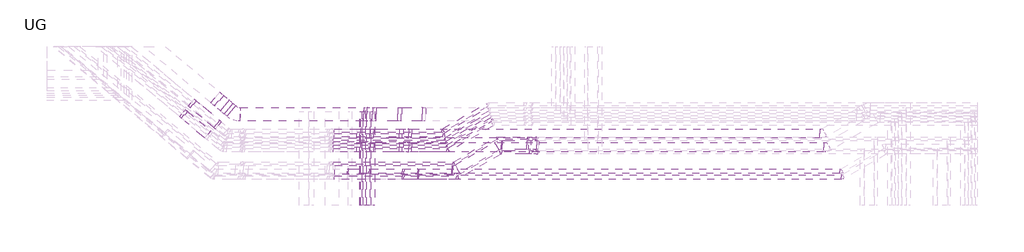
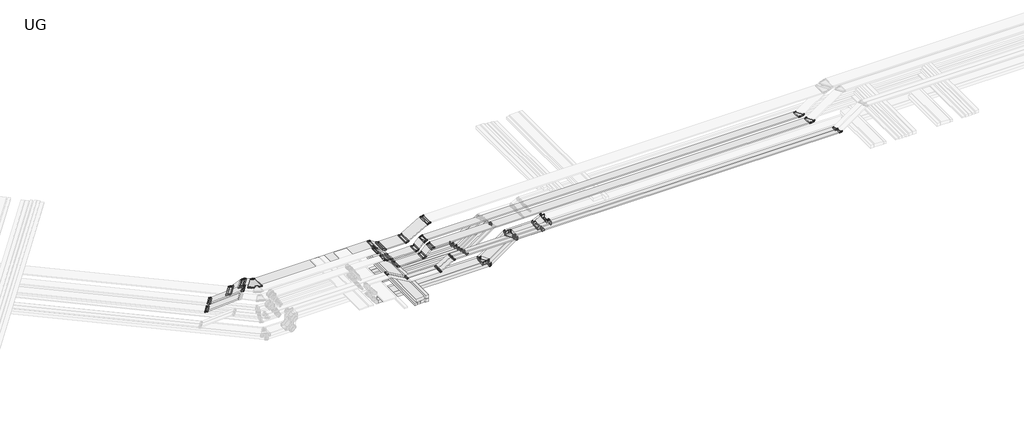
# One storey, part 8 of 14: 52 cable carrier segments, 49 cable carrier fittings.
"""IFC4 building model written with IfcOpenShell, lengths in millimetres."""

from ifc_helpers import new_model, si_unit, frame, origin, place, context, project, spatial, polyline, outline, extrude, transform, mapped, element, save
from components import cable_tray_horizontal_bend_765600c6, cable_tray_horizontal_bend_6dfea8e0, cable_tray_horizontal_bend_a9337890, cable_tray_horizontal_bend_72472c01, cable_tray_horizontal_bend_216ff8bb, cable_tray_horizontal_bend_c8e18077, cable_tray_horizontal_bend_747fd2c7, cable_tray_reducer_bedc4a8b, cable_tray_reducer_a81609a3, cable_tray_vertical_inside_bend_327bc21f, cable_tray_vertical_inside_bend_f6baaffd, cable_tray_vertical_inside_bend_1594799f, cable_tray_vertical_inside_bend_f7f475b4, cable_tray_vertical_inside_bend_de01723b, cable_tray_vertical_inside_bend_7bb7661d, cable_tray_vertical_inside_bend_f21016f6, cable_tray_vertical_inside_bend_f7b240b8, cable_tray_vertical_outside_bend_dc64f624, cable_tray_vertical_outside_bend_59e16c32, cable_tray_vertical_outside_bend_12a83c8c, cable_tray_vertical_outside_bend_bbdee010, cable_tray_vertical_outside_bend_665fa45d, cable_tray_vertical_outside_bend_05a7bdd1, cable_tray_vertical_outside_bend_51700d4c, cable_tray_vertical_outside_bend_0b2dca79

model = new_model("IFC4")

# Units and contexts
model_context = context("Model", 3, world=origin())
ifc_project = project(units=[si_unit("LENGTHUNIT", "METRE", prefix="MILLI")], contexts=[model_context])

# Site, building, storey
site = spatial("IfcSite", under=ifc_project)
building = spatial("IfcBuilding", under=site)
storey = spatial("IfcBuildingStorey", under=building, Name="UG", Elevation=7925.0)

# Cable carrier fittings
placement = place(None, origin())
cable_tray_horizontal_bend_shape = cable_tray_horizontal_bend_765600c6(model_context)
element("IfcCableCarrierFitting", 1, ObjectType="Cable Tray Horizontal Bend : ELEC_SUB_CT_N2402", at=placement, inside=storey, context=model_context, shape_type="MappedRepresentation", body=[
    mapped(cable_tray_horizontal_bend_shape, transform((133356.4809978, 24549.9737056, 13350.0000095), x_axis=(0.7660444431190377, -0.6427876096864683, 0.0), y_axis=(0.6427876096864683, 0.7660444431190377, 0.0), z_axis=(0.0, 0.0, 1.0))),
])
cable_tray_horizontal_bend_2_shape = cable_tray_horizontal_bend_6dfea8e0(model_context)
element("IfcCableCarrierFitting", 2, ObjectType="Cable Tray Horizontal Bend : ELEC_SUB_CT_N2402", at=placement, inside=storey, context=model_context, shape_type="MappedRepresentation", body=[
    mapped(cable_tray_horizontal_bend_2_shape, transform((159039.9266219, 23699.9737061, 13499.9999917), x_axis=(1.0, 0.0, 0.0), y_axis=(0.0, 1.0, 0.0), z_axis=(0.0, 0.0, 1.0))),
])
element("IfcCableCarrierFitting", 3, ObjectType="Cable Tray Horizontal Bend : ELEC_SUB_CT_N2402", at=placement, inside=storey, context=model_context, shape_type="MappedRepresentation", body=[
    mapped(cable_tray_horizontal_bend_2_shape, transform((159219.6162888, 23099.9736973, 13499.9999917), x_axis=(1.0, 0.0, 0.0), y_axis=(0.0, 1.0, 0.0), z_axis=(0.0, 0.0, 1.0))),
])
cable_tray_horizontal_bend_3_shape = cable_tray_horizontal_bend_a9337890(model_context)
element("IfcCableCarrierFitting", 4, ObjectType="Cable Tray Horizontal Bend : ELEC_SUB_CT_N2402", at=placement, inside=storey, context=model_context, shape_type="MappedRepresentation", body=[
    mapped(cable_tray_horizontal_bend_3_shape, transform((159911.7620239, 21797.4337006, 13499.9999917), x_axis=(1.0, 0.0, 0.0), y_axis=(0.0, 1.0, 0.0), z_axis=(0.0, 0.0, 1.0))),
])
element("IfcCableCarrierFitting", 5, ObjectType="Cable Tray Horizontal Bend : ELEC_SUB_CT_N2402", at=placement, inside=storey, context=model_context, shape_type="MappedRepresentation", body=[
    mapped(cable_tray_horizontal_bend_3_shape, transform((159844.7747258, 22047.4337006, 13499.9999917), x_axis=(1.0, 0.0, 0.0), y_axis=(0.0, 1.0, 0.0), z_axis=(0.0, 0.0, 1.0))),
])
cable_tray_horizontal_bend_4_shape = cable_tray_horizontal_bend_72472c01(model_context)
element("IfcCableCarrierFitting", 6, ObjectType="Cable Tray Horizontal Bend : ELEC_ELV_TKG_N2402", at=placement, inside=storey, context=model_context, shape_type="MappedRepresentation", body=[
    mapped(cable_tray_horizontal_bend_4_shape, transform((144976.368864, 22875.1903846, 12649.8684524), x_axis=(-0.99999999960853, 0.0, 2.7981063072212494e-05), y_axis=(2.0978811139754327e-10, -0.9999999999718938, 7.497503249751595e-06), z_axis=(2.7981063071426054e-05, 7.497503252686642e-06, 0.9999999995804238))),
])
element("IfcCableCarrierFitting", 7, ObjectType="Cable Tray Horizontal Bend : ELEC_ELV_TKG_N2402", at=placement, inside=storey, context=model_context, shape_type="MappedRepresentation", body=[
    mapped(cable_tray_horizontal_bend_4_shape, transform((143070.7376596, 21774.9736958, 12649.9300229), x_axis=(1.0, 0.0, 0.0), y_axis=(0.0, 0.9999999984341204, -5.5962126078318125e-05), z_axis=(0.0, 5.5962126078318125e-05, 0.9999999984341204))),
])
element("IfcCableCarrierFitting", 8, ObjectType="Cable Tray Horizontal Bend : ELEC_ELV_TKG_N2402", at=placement, inside=storey, context=model_context, shape_type="MappedRepresentation", body=[
    mapped(cable_tray_horizontal_bend_4_shape, transform((142475.4124203, 23624.9736983, 12649.9185665), x_axis=(1.0, 0.0, 0.0), y_axis=(0.0, 0.9999999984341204, -5.596212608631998e-05), z_axis=(0.0, 5.596212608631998e-05, 0.9999999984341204))),
])
element("IfcCableCarrierFitting", 9, ObjectType="Cable Tray Horizontal Bend : ELEC_ELV_TKG_N2402", at=placement, inside=storey, context=model_context, shape_type="MappedRepresentation", body=[
    mapped(cable_tray_horizontal_bend_4_shape, transform((142421.8225818, 23824.9736983, 12649.917067), x_axis=(1.0, 0.0, 0.0), y_axis=(0.0, 0.9999999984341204, -5.5962126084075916e-05), z_axis=(0.0, 5.5962126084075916e-05, 0.9999999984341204))),
])
cable_tray_horizontal_bend_5_shape = cable_tray_horizontal_bend_216ff8bb(model_context)
element("IfcCableCarrierFitting", 10, ObjectType="Cable Tray Horizontal Bend : ELEC_ELV_TKG_N2402", at=placement, inside=storey, context=model_context, shape_type="MappedRepresentation", body=[
    mapped(cable_tray_horizontal_bend_5_shape, transform((144888.9556207, 23200.0, 12669.7868085), x_axis=(-0.9999999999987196, 0.0, -1.6002941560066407e-06), y_axis=(-7.936177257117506e-11, -0.9999999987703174, 4.9591990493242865e-05), z_axis=(-1.6002941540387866e-06, 4.9591990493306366e-05, 0.9999999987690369))),
])
element("IfcCableCarrierFitting", 11, ObjectType="Cable Tray Horizontal Bend : ELEC_ELV_TKG_N2402", at=placement, inside=storey, context=model_context, shape_type="MappedRepresentation", body=[
    mapped(cable_tray_horizontal_bend_5_shape, transform((142983.6541723, 22099.9736957, 12669.838312), x_axis=(1.0, 0.0, 0.0), y_axis=(0.0, 0.9999999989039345, -4.6820199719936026e-05), z_axis=(0.0, 4.6820199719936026e-05, 0.9999999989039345))),
])
cable_tray_horizontal_bend_6_shape = cable_tray_horizontal_bend_c8e18077(model_context)
element("IfcCableCarrierFitting", 12, ObjectType="Cable Tray Horizontal Bend : ELEC_ELV_TKG_N2402", at=placement, inside=storey, context=model_context, shape_type="MappedRepresentation", body=[
    mapped(cable_tray_horizontal_bend_6_shape, transform((144808.9516321, 23500.0, 12624.6734967), x_axis=(-0.99999999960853, 0.0, 2.798106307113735e-05), y_axis=(2.0978811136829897e-10, -0.9999999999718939, 7.4975032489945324e-06), z_axis=(2.7981063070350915e-05, 7.4975032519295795e-06, 0.999999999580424))),
])
element("IfcCableCarrierFitting", 13, ObjectType="Cable Tray Horizontal Bend : ELEC_ELV_TKG_N2402", at=placement, inside=storey, context=model_context, shape_type="MappedRepresentation", body=[
    mapped(cable_tray_horizontal_bend_6_shape, transform((144594.5922772, 24300.0000036, 12624.8577699), x_axis=(-0.99999999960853, 0.0, 2.7981063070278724e-05), y_axis=(2.097881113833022e-10, -0.9999999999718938, 7.497503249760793e-06), z_axis=(2.7981063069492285e-05, 7.49750325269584e-06, 0.9999999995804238))),
])
element("IfcCableCarrierFitting", 14, ObjectType="Cable Tray Horizontal Bend : ELEC_ELV_TKG_N2402", at=placement, inside=storey, context=model_context, shape_type="MappedRepresentation", body=[
    mapped(cable_tray_horizontal_bend_6_shape, transform((142903.3204278, 22399.7833112, 12624.7350672), x_axis=(1.0, 0.0, 0.0), y_axis=(0.0, 0.9999999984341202, -5.5962126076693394e-05), z_axis=(0.0, 5.5962126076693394e-05, 0.9999999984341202))),
])
element("IfcCableCarrierFitting", 15, ObjectType="Cable Tray Horizontal Bend : ELEC_ELV_TKG_N2402", at=placement, inside=storey, context=model_context, shape_type="MappedRepresentation", body=[
    mapped(cable_tray_horizontal_bend_6_shape, transform((142602.6882865, 23149.9736983, 12624.9221278), x_axis=(1.0, 0.0, 0.0), y_axis=(0.0, 0.9999999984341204, -5.596212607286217e-05), z_axis=(0.0, 5.596212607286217e-05, 0.9999999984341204))),
])
element("IfcCableCarrierFitting", 16, ObjectType="Cable Tray Horizontal Bend : ELEC_ELV_TKG_N2402", at=placement, inside=storey, context=model_context, shape_type="MappedRepresentation", body=[
    mapped(cable_tray_horizontal_bend_6_shape, transform((142562.4959076, 23299.9736983, 12624.9210031), x_axis=(1.0, 0.0, 0.0), y_axis=(0.0, 0.9999999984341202, -5.596212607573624e-05), z_axis=(0.0, 5.596212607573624e-05, 0.9999999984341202))),
])
element("IfcCableCarrierFitting", 17, ObjectType="Cable Tray Horizontal Bend : ELEC_ELV_TKG_N2402", at=placement, inside=storey, context=model_context, shape_type="MappedRepresentation", body=[
    mapped(cable_tray_horizontal_bend_6_shape, transform((142522.3035288, 23449.9736983, 12624.919409), x_axis=(1.0, 0.0, 0.0), y_axis=(0.0, 0.9999999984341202, -5.596212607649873e-05), z_axis=(0.0, 5.596212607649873e-05, 0.9999999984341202))),
])
cable_tray_horizontal_bend_7_shape = cable_tray_horizontal_bend_747fd2c7(model_context)
element("IfcCableCarrierFitting", 18, ObjectType="Cable Tray Horizontal Bend : ELEC_ELV_CT_N2402", at=placement, inside=storey, context=model_context, shape_type="MappedRepresentation", body=[
    mapped(cable_tray_horizontal_bend_7_shape, transform((142648.9661933, 22974.619666, 12599.9852732), x_axis=(1.0, 0.0, 0.0), y_axis=(0.0, 0.9999999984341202, -5.596212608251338e-05), z_axis=(0.0, 5.596212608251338e-05, 0.9999999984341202))),
])
cable_tray_reducer_shape = cable_tray_reducer_bedc4a8b(model_context)
element("IfcCableCarrierFitting", 19, ObjectType="Cable Tray Reducer : ELEC_ELV_TKG_N2402", at=placement, inside=storey, context=model_context, shape_type="MappedRepresentation", body=[
    mapped(cable_tray_reducer_shape, transform((144996.1352976, 23200.0, 12669.7869801), x_axis=(0.9999999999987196, 0.0, 1.60029415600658e-06), y_axis=(7.936177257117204e-11, 0.9999999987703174, -4.959199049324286e-05), z_axis=(-1.600294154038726e-06, 4.959199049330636e-05, 0.9999999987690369))),
])
cable_tray_reducer_2_shape = cable_tray_reducer_a81609a3(model_context)
element("IfcCableCarrierFitting", 20, ObjectType="Cable Tray Reducer : ELEC_ELV_TKG_N2402", at=placement, inside=storey, context=model_context, shape_type="MappedRepresentation", body=[
    mapped(cable_tray_reducer_2_shape, transform((142876.4744953, 22099.9736957, 12669.838312), x_axis=(-1.0, 0.0, 0.0), y_axis=(0.0, -0.9999999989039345, 4.6820199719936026e-05), z_axis=(0.0, 4.6820199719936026e-05, 0.9999999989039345))),
])
cable_tray_vertical_inside_bend_shape = cable_tray_vertical_inside_bend_327bc21f(model_context)
element("IfcCableCarrierFitting", 21, ObjectType="Cable Tray Vertical Inside Bend : ELEC_SUB_CT_N2402", at=placement, inside=storey, context=model_context, shape_type="MappedRepresentation", body=[
    mapped(cable_tray_vertical_inside_bend_shape, transform((131478.6679554, 25016.0497415, 12850.0), x_axis=(0.7660444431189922, -0.6427876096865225, 0.0), y_axis=(0.0, 0.0, 1.0), z_axis=(-0.6427876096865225, -0.7660444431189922, 0.0))),
])
element("IfcCableCarrierFitting", 22, ObjectType="Cable Tray Vertical Inside Bend : ELEC_SUB_CT_N2402", at=placement, inside=storey, context=model_context, shape_type="MappedRepresentation", body=[
    mapped(cable_tray_vertical_inside_bend_shape, transform((131092.995384, 24556.4230689, 12850.0), x_axis=(-0.6634139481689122, 0.5566703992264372, -0.5000000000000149), y_axis=(-0.38302222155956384, 0.32139380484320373, 0.8660254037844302), z_axis=(0.6427876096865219, 0.7660444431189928, 0.0))),
])
cable_tray_vertical_inside_bend_2_shape = cable_tray_vertical_inside_bend_f6baaffd(model_context)
element("IfcCableCarrierFitting", 23, ObjectType="Cable Tray Vertical Inside Bend : ELEC_SUB_CT_N2402", at=placement, inside=storey, context=model_context, shape_type="MappedRepresentation", body=[
    mapped(cable_tray_vertical_inside_bend_2_shape, transform((140619.6162893, 23699.9737061, 13125.0), x_axis=(-0.7071067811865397, 0.0, -0.7071067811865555), y_axis=(-0.7071067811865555, 0.0, 0.7071067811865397), z_axis=(0.0, 1.0, 0.0))),
])
element("IfcCableCarrierFitting", 24, ObjectType="Cable Tray Vertical Inside Bend : ELEC_SUB_CT_N2402", at=placement, inside=storey, context=model_context, shape_type="MappedRepresentation", body=[
    mapped(cable_tray_vertical_inside_bend_2_shape, transform((139314.9266219, 23699.9737061, 13125.0), x_axis=(0.7071067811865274, 0.0, -0.7071067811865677), y_axis=(0.7071067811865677, 0.0, 0.7071067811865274), z_axis=(0.0, -1.0, 0.0))),
])
element("IfcCableCarrierFitting", 25, ObjectType="Cable Tray Vertical Inside Bend : ELEC_SUB_CT_N2402", at=placement, inside=storey, context=model_context, shape_type="MappedRepresentation", body=[
    mapped(cable_tray_vertical_inside_bend_2_shape, transform((140619.6162893, 23099.9736973, 13125.0), x_axis=(-0.7071067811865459, 0.0, -0.7071067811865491), y_axis=(-0.7071067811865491, 0.0, 0.7071067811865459), z_axis=(0.0, 1.0, 0.0))),
])
element("IfcCableCarrierFitting", 26, ObjectType="Cable Tray Vertical Inside Bend : ELEC_SUB_CT_N2402", at=placement, inside=storey, context=model_context, shape_type="MappedRepresentation", body=[
    mapped(cable_tray_vertical_inside_bend_2_shape, transform((139314.9266219, 23099.9736973, 13125.0), x_axis=(0.7071067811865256, 0.0, -0.7071067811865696), y_axis=(0.7071067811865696, 0.0, 0.7071067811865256), z_axis=(0.0, -1.0, 0.0))),
])
cable_tray_vertical_inside_bend_3_shape = cable_tray_vertical_inside_bend_1594799f(model_context)
element("IfcCableCarrierFitting", 27, ObjectType="Cable Tray Vertical Inside Bend : ELEC_SUB_CT_N2402", at=placement, inside=storey, context=model_context, shape_type="MappedRepresentation", body=[
    mapped(cable_tray_vertical_inside_bend_3_shape, transform((132579.6338733, 25201.8258413, 12850.0), x_axis=(-0.5416752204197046, 0.4545194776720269, -0.7071067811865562), y_axis=(-0.54167522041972, 0.45451947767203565, 0.707106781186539), z_axis=(0.6427876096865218, 0.7660444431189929, 0.0))),
])
cable_tray_vertical_inside_bend_4_shape = cable_tray_vertical_inside_bend_f7f475b4(model_context)
element("IfcCableCarrierFitting", 28, ObjectType="Cable Tray Vertical Inside Bend : ELEC_SUB_CT_N2402", at=placement, inside=storey, context=model_context, shape_type="MappedRepresentation", body=[
    mapped(cable_tray_vertical_inside_bend_4_shape, transform((140555.3158669, 24549.9737056, 13125.0), x_axis=(-0.8660254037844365, 0.0, -0.5000000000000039), y_axis=(-0.5000000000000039, 0.0, 0.8660254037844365), z_axis=(0.0, 1.0, 0.0))),
])
element("IfcCableCarrierFitting", 29, ObjectType="Cable Tray Vertical Inside Bend : ELEC_SUB_CT_N2402", at=placement, inside=storey, context=model_context, shape_type="MappedRepresentation", body=[
    mapped(cable_tray_vertical_inside_bend_4_shape, transform((139444.6841331, 24549.9737056, 13125.0), x_axis=(0.8660254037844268, 0.0, -0.5000000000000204), y_axis=(0.5000000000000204, 0.0, 0.8660254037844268), z_axis=(0.0, -1.0, 0.0))),
])
cable_tray_vertical_inside_bend_5_shape = cable_tray_vertical_inside_bend_de01723b(model_context)
element("IfcCableCarrierFitting", 30, ObjectType="Cable Tray Vertical Inside Bend : ELEC_SUB_CT_N2402", at=placement, inside=storey, context=model_context, shape_type="MappedRepresentation", body=[
    mapped(cable_tray_vertical_inside_bend_5_shape, transform((140700.0, 21797.4337006, 13125.0), x_axis=(-0.8660254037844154, 0.0, -0.5000000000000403), y_axis=(-0.5000000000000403, 0.0, 0.8660254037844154), z_axis=(0.0, 1.0, 0.0))),
])
element("IfcCableCarrierFitting", 31, ObjectType="Cable Tray Vertical Inside Bend : ELEC_SUB_CT_N2402", at=placement, inside=storey, context=model_context, shape_type="MappedRepresentation", body=[
    mapped(cable_tray_vertical_inside_bend_5_shape, transform((139235.0, 22047.4337006, 13125.0), x_axis=(0.8660254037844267, 0.0, -0.5000000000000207), y_axis=(0.5000000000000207, 0.0, 0.8660254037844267), z_axis=(0.0, -1.0, 0.0))),
])
element("IfcCableCarrierFitting", 32, ObjectType="Cable Tray Vertical Inside Bend : ELEC_SUB_CT_N2402", at=placement, inside=storey, context=model_context, shape_type="MappedRepresentation", body=[
    mapped(cable_tray_vertical_inside_bend_5_shape, transform((140700.0, 22047.4337006, 13125.0), x_axis=(-0.866025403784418, 0.0, -0.500000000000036), y_axis=(-0.500000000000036, 0.0, 0.866025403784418), z_axis=(0.0, 1.0, 0.0))),
])
cable_tray_vertical_inside_bend_6_shape = cable_tray_vertical_inside_bend_7bb7661d(model_context)
element("IfcCableCarrierFitting", 33, ObjectType="Cable Tray Vertical Inside Bend : ELEC_ELV_TKG_N2402", at=placement, inside=storey, context=model_context, shape_type="MappedRepresentation", body=[
    mapped(cable_tray_vertical_inside_bend_6_shape, transform((146247.5404939, 22875.1903846, 12649.8690269), x_axis=(-0.8660254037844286, 0.0, -0.5000000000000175), y_axis=(-0.5000000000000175, 0.0, 0.8660254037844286), z_axis=(0.0, 1.0, 0.0))),
])
cable_tray_vertical_inside_bend_7_shape = cable_tray_vertical_inside_bend_f21016f6(model_context)
element("IfcCableCarrierFitting", 34, ObjectType="Cable Tray Vertical Inside Bend : ELEC_ELV_TKG_N2402", at=placement, inside=storey, context=model_context, shape_type="MappedRepresentation", body=[
    mapped(cable_tray_vertical_inside_bend_7_shape, transform((146180.2158353, 23200.0, 12649.6816825), x_axis=(-0.8660254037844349, 0.0, -0.5000000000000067), y_axis=(-0.5000000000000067, 0.0, 0.8660254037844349), z_axis=(0.0, 1.0, 0.0))),
])
cable_tray_vertical_inside_bend_8_shape = cable_tray_vertical_inside_bend_f7b240b8(model_context)
element("IfcCableCarrierFitting", 35, ObjectType="Cable Tray Vertical Inside Bend : ELEC_ELV_TKG_N2402", at=placement, inside=storey, context=model_context, shape_type="MappedRepresentation", body=[
    mapped(cable_tray_vertical_inside_bend_8_shape, transform((146165.8972261, 23500.0, 12624.6806903), x_axis=(-0.8660254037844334, 0.0, -0.5000000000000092), y_axis=(-0.5000000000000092, 0.0, 0.8660254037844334), z_axis=(0.0, 1.0, 0.0))),
])
cable_tray_vertical_outside_bend_shape = cable_tray_vertical_outside_bend_dc64f624(model_context)
element("IfcCableCarrierFitting", 36, ObjectType="Cable Tray Vertical Outside Bend : ELEC_SUB_CT_N2402", at=placement, inside=storey, context=model_context, shape_type="MappedRepresentation", body=[
    mapped(cable_tray_vertical_outside_bend_shape, transform((132573.3009692, 24097.5435834, 13674.9999995), x_axis=(0.6634139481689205, -0.5566703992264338, 0.5000000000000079), y_axis=(0.3830222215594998, -0.3213938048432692, -0.8660254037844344), z_axis=(0.6427876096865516, 0.7660444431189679, 0.0))),
])
cable_tray_vertical_outside_bend_2_shape = cable_tray_vertical_outside_bend_59e16c32(model_context)
element("IfcCableCarrierFitting", 37, ObjectType="Cable Tray Vertical Outside Bend : ELEC_SUB_CT_N2402", at=placement, inside=storey, context=model_context, shape_type="MappedRepresentation", body=[
    mapped(cable_tray_vertical_outside_bend_2_shape, transform((138764.9266224, 23699.9737061, 13674.9999995), x_axis=(-0.7071067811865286, 0.0, 0.7071067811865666), y_axis=(-0.7071067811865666, 0.0, -0.7071067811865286), z_axis=(0.0, -1.0, 0.0))),
])
element("IfcCableCarrierFitting", 38, ObjectType="Cable Tray Vertical Outside Bend : ELEC_SUB_CT_N2402", at=placement, inside=storey, context=model_context, shape_type="MappedRepresentation", body=[
    mapped(cable_tray_vertical_outside_bend_2_shape, transform((138764.9266224, 23099.9736973, 13674.9999995), x_axis=(-0.7071067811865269, 0.0, 0.7071067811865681), y_axis=(-0.7071067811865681, 0.0, -0.7071067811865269), z_axis=(0.0, -1.0, 0.0))),
])
element("IfcCableCarrierFitting", 39, ObjectType="Cable Tray Vertical Outside Bend : ELEC_SUB_CT_N2402", at=placement, inside=storey, context=model_context, shape_type="MappedRepresentation", body=[
    mapped(cable_tray_vertical_outside_bend_2_shape, transform((140994.616281, 23699.9737061, 13499.9999917), x_axis=(-1.0, 0.0, 0.0), y_axis=(0.0, 0.0, -1.0), z_axis=(0.0, -1.0, 0.0))),
])
element("IfcCableCarrierFitting", 40, ObjectType="Cable Tray Vertical Outside Bend : ELEC_SUB_CT_N2402", at=placement, inside=storey, context=model_context, shape_type="MappedRepresentation", body=[
    mapped(cable_tray_vertical_outside_bend_2_shape, transform((140994.616281, 23099.9736973, 13499.9999917), x_axis=(-1.0, 0.0, 0.0), y_axis=(0.0, 0.0, -1.0), z_axis=(0.0, -1.0, 0.0))),
])
cable_tray_vertical_outside_bend_3_shape = cable_tray_vertical_outside_bend_12a83c8c(model_context)
element("IfcCableCarrierFitting", 41, ObjectType="Cable Tray Vertical Outside Bend : ELEC_SUB_CT_N2402", at=placement, inside=storey, context=model_context, shape_type="MappedRepresentation", body=[
    mapped(cable_tray_vertical_outside_bend_3_shape, transform((132962.6561021, 24880.4320304, 13350.0000095), x_axis=(-0.7660444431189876, 0.642787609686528, 0.0), y_axis=(0.0, 0.0, -1.0), z_axis=(-0.642787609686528, -0.7660444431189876, 0.0))),
])
cable_tray_vertical_outside_bend_4_shape = cable_tray_vertical_outside_bend_bbdee010(model_context)
element("IfcCableCarrierFitting", 42, ObjectType="Cable Tray Vertical Outside Bend : ELEC_SUB_CT_N2402", at=placement, inside=storey, context=model_context, shape_type="MappedRepresentation", body=[
    mapped(cable_tray_vertical_outside_bend_4_shape, transform((139054.972685, 24549.9737056, 13350.0000095), x_axis=(1.0, 0.0, 0.0), y_axis=(0.0, 0.0, -1.0), z_axis=(0.0, 1.0, 0.0))),
])
element("IfcCableCarrierFitting", 43, ObjectType="Cable Tray Vertical Outside Bend : ELEC_SUB_CT_N2402", at=placement, inside=storey, context=model_context, shape_type="MappedRepresentation", body=[
    mapped(cable_tray_vertical_outside_bend_4_shape, transform((141594.5463514, 24549.9737056, 13725.0), x_axis=(0.8660254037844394, 0.0, 0.49999999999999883), y_axis=(0.49999999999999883, 0.0, -0.8660254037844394), z_axis=(0.0, 1.0, 0.0))),
])
cable_tray_vertical_outside_bend_5_shape = cable_tray_vertical_outside_bend_665fa45d(model_context)
element("IfcCableCarrierFitting", 44, ObjectType="Cable Tray Vertical Outside Bend : ELEC_SUB_CT_N2402", at=placement, inside=storey, context=model_context, shape_type="MappedRepresentation", body=[
    mapped(cable_tray_vertical_outside_bend_5_shape, transform((141349.5190385, 22047.4337006, 13499.9999917), x_axis=(0.8660254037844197, 0.0, 0.5000000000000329), y_axis=(0.5000000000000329, 0.0, -0.8660254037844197), z_axis=(0.0, 1.0, 0.0))),
])
element("IfcCableCarrierFitting", 45, ObjectType="Cable Tray Vertical Outside Bend : ELEC_SUB_CT_N2402", at=placement, inside=storey, context=model_context, shape_type="MappedRepresentation", body=[
    mapped(cable_tray_vertical_outside_bend_5_shape, transform((141349.5190385, 21797.4337006, 13499.9999917), x_axis=(0.8660254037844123, 0.0, 0.5000000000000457), y_axis=(0.5000000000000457, 0.0, -0.8660254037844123), z_axis=(0.0, 1.0, 0.0))),
])
element("IfcCableCarrierFitting", 46, ObjectType="Cable Tray Vertical Outside Bend : ELEC_SUB_CT_N2402", at=placement, inside=storey, context=model_context, shape_type="MappedRepresentation", body=[
    mapped(cable_tray_vertical_outside_bend_5_shape, transform((138286.7714729, 22047.4337006, 13672.4599954), x_axis=(-0.8660254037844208, 0.0, 0.5000000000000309), y_axis=(-0.5000000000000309, 0.0, -0.8660254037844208), z_axis=(0.0, -1.0, 0.0))),
])
cable_tray_vertical_outside_bend_6_shape = cable_tray_vertical_outside_bend_05a7bdd1(model_context)
element("IfcCableCarrierFitting", 47, ObjectType="Cable Tray Vertical Outside Bend : ELEC_ELV_TKG_N2402", at=placement, inside=storey, context=model_context, shape_type="MappedRepresentation", body=[
    mapped(cable_tray_vertical_outside_bend_6_shape, transform((146601.7289072, 22875.0, 12854.3598027), x_axis=(-0.9999999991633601, 0.0, 4.090574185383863e-05), y_axis=(-4.090574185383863e-05, 0.0, -0.9999999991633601), z_axis=(0.0, -1.0, 0.0))),
])
cable_tray_vertical_outside_bend_7_shape = cable_tray_vertical_outside_bend_51700d4c(model_context)
element("IfcCableCarrierFitting", 48, ObjectType="Cable Tray Vertical Outside Bend : ELEC_ELV_TKG_N2402", at=placement, inside=storey, context=model_context, shape_type="MappedRepresentation", body=[
    mapped(cable_tray_vertical_outside_bend_7_shape, transform((146565.6497311, 23200.0, 12872.212046), x_axis=(-0.999999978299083, 0.0, 0.00020833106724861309), y_axis=(-0.00020833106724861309, 0.0, -0.999999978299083), z_axis=(0.0, -1.0, 0.0))),
])
cable_tray_vertical_outside_bend_8_shape = cable_tray_vertical_outside_bend_0b2dca79(model_context)
element("IfcCableCarrierFitting", 49, ObjectType="Cable Tray Vertical Outside Bend : ELEC_ELV_TKG_N2402", at=placement, inside=storey, context=model_context, shape_type="MappedRepresentation", body=[
    mapped(cable_tray_vertical_outside_bend_8_shape, transform((146551.3256746, 23500.0, 12847.2079088), x_axis=(-0.9999999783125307, 0.0, 0.00020826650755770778), y_axis=(-0.00020826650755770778, 0.0, -0.9999999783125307), z_axis=(0.0, -1.0, 0.0))),
])

# Cable carrier segments
element("IfcCableCarrierSegment", 50, ObjectType="ELEC_ELV_TKG_N2402", at=placement, inside=storey, context=model_context, shape_type="SweptSolid", body=[
    extrude(outline(polyline([(138949.999995, 24700.0000036), (139049.999995, 24700.0000036), (139049.999995, 20563.0534549), (138949.999995, 20563.0534549), (138949.999995, 24700.0000036)])), frame((0.0, 0.0, 12748.000013), z_axis=(0.0, 0.0, 1.0), x_axis=(1.0, 0.0, 0.0)), (0.0, 0.0, 1.0), 100.0),
])
element("IfcCableCarrierSegment", 51, ObjectType="ELEC_ELV_TKG_N2402", at=placement, inside=storey, context=model_context, shape_type="SweptSolid", body=[
    extrude(outline(polyline([(139099.999995, 24675.0000095), (139249.999995, 24675.0000095), (139249.999995, 20563.0534549), (139099.999995, 20563.0534549), (139099.999995, 24675.0000095)])), frame((0.0, 0.0, 12748.000013), z_axis=(0.0, 0.0, 1.0), x_axis=(1.0, 0.0, 0.0)), (0.0, 0.0, 1.0), 150.0),
])
element("IfcCableCarrierSegment", 52, ObjectType="ELEC_ELV_TKG_N2402", at=placement, inside=storey, context=model_context, shape_type="SweptSolid", body=[
    extrude(outline(polyline([(138849.999995, 24675.0000095), (139249.999995, 24675.0000095), (139249.999995, 20563.0534549), (138849.999995, 20563.0534549), (138849.999995, 24675.0000095)])), frame((0.0, 0.0, 12908.000013), z_axis=(0.0, 0.0, 1.0), x_axis=(1.0, 0.0, 0.0)), (0.0, 0.0, 1.0), 150.0),
])
element("IfcCableCarrierSegment", 53, ObjectType="ELEC_ELV_TKG_N2402", at=placement, inside=storey, context=model_context, shape_type="SweptSolid", body=[
    extrude(outline(polyline([(139449.999995, 20563.0534549), (139299.999995, 20563.0534549), (139299.999995, 24675.0000095), (139449.999995, 24675.0000095), (139449.999995, 20563.0534549)])), frame((0.0, 0.0, 12748.000013), z_axis=(0.0, 0.0, 1.0), x_axis=(1.0, 0.0, 0.0)), (0.0, 0.0, 1.0), 150.0),
])
element("IfcCableCarrierSegment", 54, ObjectType="ELEC_ELV_TKG_N2402", at=placement, inside=storey, context=model_context, shape_type="SweptSolid", body=[
    extrude(outline(polyline([(138899.999995, 20563.0534549), (138799.999995, 20563.0534549), (138799.999995, 24675.0000095), (138899.999995, 24675.0000095), (138899.999995, 20563.0534549)])), frame((0.0, 0.0, 12748.000013), z_axis=(0.0, 0.0, 1.0), x_axis=(1.0, 0.0, 0.0)), (0.0, 0.0, 1.0), 100.0),
])
element("IfcCableCarrierSegment", 55, ObjectType="ELEC_ELV_TKG_N2402", at=placement, inside=storey, context=model_context, shape_type="SweptSolid", body=[
    extrude(outline(polyline([(139299.999995, 24675.0000095), (139449.999995, 24675.0000095), (139449.999995, 20563.0534549), (139299.999995, 20563.0534549), (139299.999995, 24675.0000095)])), frame((0.0, 0.0, 12908.000013), z_axis=(0.0, 0.0, 1.0), x_axis=(1.0, 0.0, 0.0)), (0.0, 0.0, 1.0), 150.0),
])
element("IfcCableCarrierSegment", 56, ObjectType="ELEC_SUB_CT_N2402", at=placement, inside=storey, context=model_context, shape_type="SweptSolid", body=[
    extrude(outline(polyline([(138967.8891975, 24849.9737056), (138967.8891975, 24249.9737056), (133574.8631384, 24249.9737056), (133574.8631384, 24849.9737056), (138967.8891975, 24849.9737056)])), frame((0.0, 0.0, 13325.0000095), z_axis=(0.0, 0.0, 1.0), x_axis=(1.0, 0.0, 0.0)), (0.0, 0.0, 1.0), 50.0),
])
element("IfcCableCarrierSegment", 57, ObjectType="ELEC_SUB_CT_N2402", at=placement, inside=storey, context=model_context, shape_type="SweptSolid", body=[
    extrude(outline(polyline([(159858.1721854, 21897.4337006), (159858.1721854, 21697.4337006), (141383.0126876, 21697.4337006), (141383.0126876, 21897.4337006), (159858.1721854, 21897.4337006)])), frame((0.0, 0.0, 13474.9999917), z_axis=(0.0, 0.0, 1.0), x_axis=(1.0, 0.0, 0.0)), (0.0, 0.0, 1.0), 50.0),
])
element("IfcCableCarrierSegment", 58, ObjectType="ELEC_SUB_CT_N2402", at=placement, inside=storey, context=model_context, shape_type="SweptSolid", body=[
    extrude(outline(polyline([(133382.0268555, 24920.1603727), (132996.3542897, 24460.5337068), (132872.9442685, 24564.0870101), (133258.6168343, 25023.7136759), (133382.0268555, 24920.1603727)])), frame((0.0, 0.0, 13325.0000095), z_axis=(0.0, 0.0, 1.0), x_axis=(1.0, 0.0, 0.0)), (0.0, 0.0, 1.0), 50.0),
])
element("IfcCableCarrierSegment", 59, ObjectType="ELEC_SUB_CT_N2402", at=placement, inside=storey, context=model_context, shape_type="SweptSolid", body=[
    extrude(outline(polyline([(0.0, -600.0), (0.0, 0.0), (437.867979, 0.0), (437.867979, -600.0), (0.0, -600.0)])), frame((132710.4417024, 24700.4428534, 13237.1320438), z_axis=(-0.5416752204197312, 0.4545194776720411, 0.7071067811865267), x_axis=(-0.5416752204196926, 0.4545194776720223, -0.7071067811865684)), (0.0, 0.0, 1.0), 50.0),
])
element("IfcCableCarrierSegment", 60, ObjectType="ELEC_SUB_CT_N2402", at=placement, inside=storey, context=model_context, shape_type="SweptSolid", body=[
    extrude(outline(polyline([(141383.0126876, 21947.4337006), (141383.0126876, 22147.4337006), (159791.1848873, 22147.4337006), (159791.1848873, 21947.4337006), (141383.0126876, 21947.4337006)])), frame((0.0, 0.0, 13474.9999917), z_axis=(0.0, 0.0, 1.0), x_axis=(1.0, 0.0, 0.0)), (0.0, 0.0, 1.0), 50.0),
])
element("IfcCableCarrierSegment", 61, ObjectType="ELEC_SUB_CT_N2402", at=placement, inside=storey, context=model_context, shape_type="SweptSolid", body=[
    extrude(outline(polyline([(0.0, -200.0), (0.0, 0.0), (683.0126853, 0.0), (683.0126853, -200.0), (0.0, -200.0)])), frame((140741.506351, 21897.4337006, 13120.0961894), z_axis=(-0.5000000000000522, 0.0, 0.8660254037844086), x_axis=(0.8660254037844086, 0.0, 0.5000000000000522)), (0.0, 0.0, 1.0), 50.0),
])
element("IfcCableCarrierSegment", 62, ObjectType="ELEC_SUB_CT_N2402", at=placement, inside=storey, context=model_context, shape_type="SweptSolid", body=[
    extrude(outline(polyline([(0.0, -200.0), (0.0, 0.0), (683.0126854, 0.0), (683.0126854, -200.0), (0.0, -200.0)])), frame((140741.5063509, 22147.4337006, 13120.0961894), z_axis=(-0.5000000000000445, 0.0, 0.8660254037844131), x_axis=(0.8660254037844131, 0.0, 0.5000000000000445)), (0.0, 0.0, 1.0), 50.0),
])
element("IfcCableCarrierSegment", 63, ObjectType="ELEC_SUB_CT_N2402", at=placement, inside=storey, context=model_context, shape_type="SweptSolid", body=[
    extrude(outline(polyline([(140468.2323793, 24849.9737056), (140468.2323793, 24249.9737056), (139531.7676207, 24249.9737056), (139531.7676207, 24849.9737056), (140468.2323793, 24849.9737056)])), frame((0.0, 0.0, 13100.0), z_axis=(0.0, 0.0, 1.0), x_axis=(1.0, 0.0, 0.0)), (0.0, 0.0, 1.0), 50.0),
])
element("IfcCableCarrierSegment", 64, ObjectType="ELEC_SUB_CT_N2402", at=placement, inside=storey, context=model_context, shape_type="SweptSolid", body=[
    extrude(outline(polyline([(0.0, -600.0), (0.0, 0.0), (275.8330439, 0.0), (275.8330439, -600.0), (0.0, -600.0)])), frame((139356.7676207, 24249.9737056, 13146.8911087), z_axis=(0.5000000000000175, 0.0, 0.8660254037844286), x_axis=(-0.8660254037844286, 0.0, 0.5000000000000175)), (0.0, 0.0, 1.0), 50.0),
])
element("IfcCableCarrierSegment", 65, ObjectType="ELEC_SUB_CT_N2402", at=placement, inside=storey, context=model_context, shape_type="SweptSolid", body=[
    extrude(outline(polyline([(0.0, -600.0), (0.0, 0.0), (1025.8330249, 0.0), (1025.8330249, -600.0), (0.0, -600.0)])), frame((140643.2323793, 24849.9737056, 13146.8911087), z_axis=(-0.5000000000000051, 0.0, 0.8660254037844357), x_axis=(0.8660254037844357, 0.0, 0.5000000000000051)), (0.0, 0.0, 1.0), 50.0),
])
element("IfcCableCarrierSegment", 66, ObjectType="ELEC_ELV_TKG_N2402", at=placement, inside=storey, context=model_context, shape_type="SweptSolid", body=[
    extrude(outline(polyline([(0.0, -150.0), (0.0, 0.0), (328.5935298, 0.0), (328.5935298, -150.0), (0.0, -150.0)])), frame((146604.4184384, 22800.0, 12769.3100639), z_axis=(-0.5000000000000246, 0.0, 0.8660254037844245), x_axis=(-0.8660254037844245, 0.0, -0.5000000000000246)), (0.0, 0.0, 1.0), 150.0),
])
element("IfcCableCarrierSegment", 67, ObjectType="ELEC_ELV_TKG_N2402", at=placement, inside=storey, context=model_context, shape_type="SweptSolid", body=[
    extrude(outline(polyline([(0.0, -150.0), (0.0, 0.0), (1190.7868966, 0.0), (1190.7868966, -150.0), (0.0, -150.0)])), frame((145016.561349, 22950.1903846, 12574.8673278), z_axis=(-1.416707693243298e-06, 0.0, 0.9999999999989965), x_axis=(0.9999999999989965, 0.0, 1.416707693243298e-06)), (0.0, 0.0, 1.0), 149.9999999),
])
element("IfcCableCarrierSegment", 68, ObjectType="ELEC_ELV_TKG_N2402", at=placement, inside=storey, context=model_context, shape_type="SweptSolid", body=[
    extrude(outline(polyline([(0.0, -400.0), (0.0, 0.0), (297.658204, 0.0), (297.658204, -400.0), (0.0, -400.0)])), frame((146539.3091694, 23000.0, 12770.4017753), z_axis=(-0.5000000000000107, 0.0, 0.8660254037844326), x_axis=(-0.8660254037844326, 0.0, -0.5000000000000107)), (0.0, 0.0, 1.0), 150.0),
])
element("IfcCableCarrierSegment", 69, ObjectType="ELEC_ELV_TKG_N2402", at=placement, inside=storey, context=model_context, shape_type="SweptSolid", body=[
    extrude(outline(polyline([(0.0, -400.0), (0.0, 0.0), (1060.3947135, 0.0), (1060.3947135, -400.0), (0.0, -400.0)])), frame((145046.1359478, 23400.0, 12574.6728264), z_axis=(-8.24055196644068e-06, 0.0, 0.9999999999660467), x_axis=(0.9999999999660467, 0.0, 8.24055196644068e-06)), (0.0, 0.0, 1.0), 150.0),
])
element("IfcCableCarrierSegment", 70, ObjectType="ELEC_ELV_TKG_N2402", at=placement, inside=storey, context=model_context, shape_type="SweptSolid", body=[
    extrude(outline(polyline([(0.0, -100.0), (0.0, 0.0), (391.4535114, 0.0), (391.4535114, -100.0), (0.0, -100.0)])), frame((146553.1109278, 23450.0, 12790.5035983), z_axis=(-0.5000000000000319, 0.0, 0.8660254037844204), x_axis=(-0.8660254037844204, 0.0, -0.5000000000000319)), (0.0, 0.0, 1.0), 100.0),
])
element("IfcCableCarrierSegment", 71, ObjectType="ELEC_ELV_TKG_N2402", at=placement, inside=storey, context=model_context, shape_type="SweptSolid", body=[
    extrude(outline(polyline([(0.0, -100.0), (0.0, 0.0), (1303.3558298, 0.0), (1303.3558298, -100.0), (0.0, -100.0)])), frame((144835.7468546, 23550.0, 12574.672747), z_axis=(-6.0660530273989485e-06, 0.0, 0.9999999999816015), x_axis=(0.9999999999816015, 0.0, 6.0660530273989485e-06)), (0.0, 0.0, 1.0), 99.9999999),
])
element("IfcCableCarrierSegment", 72, ObjectType="ELEC_ELV_CT_N2402", at=placement, inside=storey, context=model_context, shape_type="SweptSolid", body=[
    extrude(outline(polyline([(0.0, -149.9999999), (0.0, 0.0), (2220.3759205, 0.0), (2220.3759206, -149.9999999), (0.0, -149.9999999)])), frame((142646.2726047, 23059.6670622, 12574.9841486), z_axis=(4.8390723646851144e-05, 2.793839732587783e-05, 0.9999999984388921), x_axis=(0.8660254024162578, 0.4999999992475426, -5.587679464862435e-05)), (0.0, 0.0, 1.0), 50.0),
])
element("IfcCableCarrierSegment", 73, ObjectType="ELEC_ELV_TKG_N2402", at=placement, inside=storey, context=model_context, shape_type="SweptSolid", body=[
    extrude(outline(polyline([(0.0, -150.0), (0.0, 0.0), (2120.0486208, 0.0), (2120.0486207, -150.0), (0.0, -150.0)])), frame((144979.0594254, 22790.1412406, 12574.8695771), z_axis=(2.423231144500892e-05, 1.3990531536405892e-05, 0.99999999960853), x_axis=(-0.8660254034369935, -0.49999999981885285, 2.7981063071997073e-05)), (0.0, 0.0, 1.0), 150.0),
])
element("IfcCableCarrierSegment", 74, ObjectType="ELEC_ELV_TKG_N2402", at=placement, inside=storey, context=model_context, shape_type="SweptSolid", body=[
    extrude(outline(polyline([(0.0, -100.0), (0.0, 0.0), (2146.8435399, 1e-07), (2146.8435399, -100.0), (0.0, -100.0)])), frame((144810.7453397, 23443.3005707, 12574.6742465), z_axis=(2.4232311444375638e-05, 1.399053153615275e-05, 0.99999999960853), x_axis=(-0.8660254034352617, -0.4999999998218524, 2.7981063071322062e-05)), (0.0, 0.0, 1.0), 100.0),
])
element("IfcCableCarrierSegment", 75, ObjectType="ELEC_ELV_TKG_N2402", at=placement, inside=storey, context=model_context, shape_type="SweptSolid", body=[
    extrude(outline(polyline([(0.0, -100.0), (0.0, 0.0), (2246.4627728, 0.0), (2246.4627728, -100.0), (0.0, -100.0)])), frame((144596.3859848, 24243.3005742, 12574.8585197), z_axis=(2.4232311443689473e-05, 1.399053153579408e-05, 0.9999999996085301), x_axis=(-0.866025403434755, -0.49999999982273, 2.7981063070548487e-05)), (0.0, 0.0, 1.0), 100.0),
])
element("IfcCableCarrierSegment", 76, ObjectType="ELEC_ELV_TKG_N2402", at=placement, inside=storey, context=model_context, shape_type="SweptSolid", body=[
    extrude(outline(polyline([(0.0, -100.0), (0.0, 0.0), (2246.462773, 0.0), (2246.462773, -100.0), (0.0, -100.0)])), frame((144556.193606, 24393.3005743, 12574.8573949), z_axis=(2.4232311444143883e-05, 1.3990531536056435e-05, 0.9999999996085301), x_axis=(-0.8660254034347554, -0.49999999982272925, 2.7981063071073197e-05)), (0.0, 0.0, 1.0), 100.0),
])
element("IfcCableCarrierSegment", 77, ObjectType="ELEC_ELV_TKG_N2402", at=placement, inside=storey, context=model_context, shape_type="SweptSolid", body=[
    extrude(outline(polyline([(0.0, -100.0), (0.0, 0.0), (2246.4627729, 0.0), (2246.4627729, -100.0000001), (0.0, -100.0)])), frame((144516.0012271, 24543.3005742, 12574.8558008), z_axis=(2.4232311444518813e-05, 1.39905315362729e-05, 0.9999999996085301), x_axis=(-0.8660254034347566, -0.4999999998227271, 2.7981063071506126e-05)), (0.0, 0.0, 1.0), 100.0),
])
element("IfcCableCarrierSegment", 78, ObjectType="ELEC_ELV_TKG_N2402", at=placement, inside=storey, context=model_context, shape_type="SweptSolid", body=[
    extrude(outline(polyline([(0.0, -150.0), (0.0, 0.0), (2219.6678535, 0.0), (2219.6678535, -150.0), (0.0, -150.0)])), frame((144470.0069723, 24689.9508595, 12574.8553333), z_axis=(2.423231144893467e-05, 1.399053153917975e-05, 0.9999999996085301), x_axis=(-0.8660254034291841, -0.49999999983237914, 2.79810630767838e-05)), (0.0, 0.0, 1.0), 150.0),
])
element("IfcCableCarrierSegment", 79, ObjectType="ELEC_ELV_TKG_N2402", at=placement, inside=storey, context=model_context, shape_type="SweptSolid", body=[
    extrude(outline(polyline([(0.0, -150.0), (0.0, 0.0), (2219.6678535, 0.0), (2219.6678535, -150.0), (0.0, -150.0)])), frame((144416.4171338, 24889.9508595, 12574.8538338), z_axis=(2.4232311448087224e-05, 1.399053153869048e-05, 0.9999999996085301), x_axis=(-0.8660254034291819, -0.49999999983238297, 2.7981063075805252e-05)), (0.0, 0.0, 1.0), 150.0),
])
element("IfcCableCarrierSegment", 80, ObjectType="ELEC_ELV_TKG_N2402", at=placement, inside=storey, context=model_context, shape_type="SweptSolid", body=[
    extrude(outline(polyline([(0.0, -399.9999999), (0.0, 0.0), (1985.6932551, 0.0), (1985.6932551, -399.9999999), (0.0, -399.9999999)])), frame((142976.4729747, 22326.7677369, 12594.8358029), z_axis=(2.0273741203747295e-05, 1.1705049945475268e-05, 0.9999999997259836), x_axis=(0.8660254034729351, 0.49999999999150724, -2.3410099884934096e-05)), (0.0, 0.0, 1.0), 150.0),
])
element("IfcCableCarrierSegment", 81, ObjectType="ELEC_SUB_CT_N2402", at=placement, inside=storey, context=model_context, shape_type="SweptSolid", body=[
    extrude(outline(polyline([(141087.8143325, 23499.9737061), (141087.8143325, 23899.9737061), (158932.7469449, 23899.9737061), (158932.7469449, 23499.9737061), (141087.8143325, 23499.9737061)])), frame((0.0, 0.0, 13474.9999917), z_axis=(0.0, 0.0, 1.0), x_axis=(1.0, 0.0, 0.0)), (0.0, 0.0, 1.0), 50.0),
])
element("IfcCableCarrierSegment", 82, ObjectType="ELEC_ELV_TKG_N2402", at=placement, inside=storey, context=model_context, shape_type="SweptSolid", body=[
    extrude(outline(polyline([(143030.5452808, 21849.9736958), (143030.5452808, 21699.9736958), (137685.807381, 21699.9736958), (137685.807381, 21849.9736958), (143030.5452808, 21849.9736958)])), frame((0.0, 0.0, 12574.9608473), z_axis=(0.0, 0.0, 1.0), x_axis=(1.0, 0.0, 0.0)), (0.0, 0.0, 1.0), 150.0),
])
element("IfcCableCarrierSegment", 83, ObjectType="ELEC_ELV_TKG_N2402", at=placement, inside=storey, context=model_context, shape_type="SweptSolid", body=[
    extrude(outline(polyline([(142826.4744953, 22299.9736957), (142826.4744953, 21899.9736957), (137710.8122751, 21899.9736957), (137710.8122751, 22299.9736957), (142826.4744953, 22299.9736957)])), frame((0.0, 0.0, 12575.0), z_axis=(0.0, 0.0, 1.0), x_axis=(1.0, 0.0, 0.0)), (0.0, 0.0, 1.0), 150.0),
])
element("IfcCableCarrierSegment", 84, ObjectType="ELEC_ELV_TKG_N2402", at=placement, inside=storey, context=model_context, shape_type="SweptSolid", body=[
    extrude(outline(polyline([(0.0, -100.0), (0.0, 0.0), (5240.7261859, 0.0), (5240.7261858, -100.0), (0.0, -100.0)])), frame((142876.5190178, 22349.7805132, 12574.7378658), z_axis=(0.00012982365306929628, 5.596212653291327e-05, 0.9999999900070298), x_axis=(-0.9999999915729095, 0.0, 0.00012982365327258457)), (0.0, 0.0, 1.0), 100.0),
])
element("IfcCableCarrierSegment", 85, ObjectType="ELEC_ELV_CT_N2402", at=placement, inside=storey, context=model_context, shape_type="SweptSolid", body=[
    extrude(outline(polyline([(137635.8122751, 22899.619666), (137635.8122751, 23049.619666), (142608.7738145, 23049.619666), (142608.7738145, 22899.619666), (137635.8122751, 22899.619666)])), frame((0.0, 0.0, 12574.9852732), z_axis=(0.0, 0.0, 1.0), x_axis=(1.0, 0.0, 0.0)), (0.0, 0.0, 1.0), 50.0),
])
element("IfcCableCarrierSegment", 86, ObjectType="ELEC_ELV_TKG_N2402", at=placement, inside=storey, context=model_context, shape_type="SweptSolid", body=[
    extrude(outline(polyline([(0.0, -100.0), (0.0, 0.0), (4940.0855675, 0.0), (4940.0855675, -100.0), (0.0, -100.0)])), frame((142575.8931227, 23099.9709003, 12574.9249261), z_axis=(4.892613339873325e-06, 5.5962126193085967e-05, 0.9999999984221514), x_axis=(-0.9999999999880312, 0.0, 4.892613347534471e-06)), (0.0, 0.0, 1.0), 99.9999999),
])
element("IfcCableCarrierSegment", 87, ObjectType="ELEC_ELV_TKG_N2402", at=placement, inside=storey, context=model_context, shape_type="SweptSolid", body=[
    extrude(outline(polyline([(0.0, -100.0), (0.0, 0.0), (4899.8933605, 0.0), (4899.8933605, -100.0), (0.0, -100.0)])), frame((142535.7007513, 23249.9709003, 12574.9238013), z_axis=(4.741113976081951e-06, 5.596212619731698e-05, 0.9999999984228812), x_axis=(-0.999999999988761, 0.0, 4.741113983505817e-06)), (0.0, 0.0, 1.0), 99.9999999),
])
element("IfcCableCarrierSegment", 88, ObjectType="ELEC_ELV_TKG_N2402", at=placement, inside=storey, context=model_context, shape_type="SweptSolid", body=[
    extrude(outline(polyline([(0.0, -100.0), (0.0, 0.0), (4859.7011903, 0.0), (4859.7011903, -100.0), (0.0, -100.0)])), frame((142495.5083799, 23399.9709003, 12574.9222072), z_axis=(4.593293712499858e-06, 5.5962126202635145e-05, 0.999999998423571), x_axis=(-0.9999999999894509, 0.0, 4.593293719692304e-06)), (0.0, 0.0, 1.0), 99.9999999),
])
element("IfcCableCarrierSegment", 89, ObjectType="ELEC_ELV_TKG_N2402", at=placement, inside=storey, context=model_context, shape_type="SweptSolid", body=[
    extrude(outline(polyline([(0.0, -149.9999997), (0.0, 0.0), (4749.41565, 0.0), (4749.41565, -149.9999997), (0.0, -149.9999997)])), frame((142435.2197514, 23549.9695014, 12574.9227639), z_axis=(3.866690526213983e-06, 5.596212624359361e-05, 0.9999999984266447), x_axis=(-0.9999999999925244, 0.0, 3.8666905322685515e-06)), (0.0, 0.0, 1.0), 149.9999998),
])
element("IfcCableCarrierSegment", 90, ObjectType="ELEC_ELV_TKG_N2402", at=placement, inside=storey, context=model_context, shape_type="SweptSolid", body=[
    extrude(outline(polyline([(0.0, -149.9999997), (0.0, 0.0), (4695.8262443, 0.0), (4695.8262444, -149.9999997), (0.0, -149.9999997)])), frame((142381.629941, 23749.9695014, 12574.9212644), z_axis=(3.492795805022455e-06, 5.596212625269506e-05, 0.9999999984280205), x_axis=(-0.9999999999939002, 0.0, 3.492795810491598e-06)), (0.0, 0.0, 1.0), 149.9999998),
])
element("IfcCableCarrierSegment", 91, ObjectType="ELEC_SUB_CT_N2402", at=placement, inside=storey, context=model_context, shape_type="SweptSolid", body=[
    extrude(outline(polyline([(1e-07, -400.0), (0.0, 0.0), (1529.4228624, 0.0), (1529.4228624, -400.0), (1e-07, -400.0)])), frame((131656.79731, 25127.6629237, 12858.4936491), z_axis=(-0.383022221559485, 0.3213938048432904, 0.8660254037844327), x_axis=(0.6634139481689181, -0.5566703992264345, 0.5000000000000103)), (0.0, 0.0, 1.0), 50.0),
])
element("IfcCableCarrierSegment", 92, ObjectType="ELEC_SUB_CT_N2402", at=placement, inside=storey, context=model_context, shape_type="SweptSolid", body=[
    extrude(outline(polyline([(0.0, -400.0000001), (0.0, 0.0), (1529.4228623, 0.0), (1529.4228623, -400.0000001), (0.0, -400.0000001)])), frame((131271.1247386, 24668.0362511, 12858.4936491), z_axis=(-0.3830222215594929, 0.3213938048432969, 0.8660254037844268), x_axis=(0.6634139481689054, -0.5566703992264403, 0.5000000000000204)), (0.0, 0.0, 1.0), 50.0),
])
element("IfcCableCarrierSegment", 93, ObjectType="ELEC_SUB_CT_N2402", at=placement, inside=storey, context=model_context, shape_type="SweptSolid", body=[
    extrude(outline(polyline([(141087.8143325, 22899.9736973), (141087.8143325, 23299.9736973), (159112.4366118, 23299.9736973), (159112.4366118, 22899.9736973), (141087.8143325, 22899.9736973)])), frame((0.0, 0.0, 13474.9999917), z_axis=(0.0, 0.0, 1.0), x_axis=(1.0, 0.0, 0.0)), (0.0, 0.0, 1.0), 50.0),
])
element("IfcCableCarrierSegment", 94, ObjectType="ELEC_SUB_CT_N2402", at=placement, inside=storey, context=model_context, shape_type="SweptSolid", body=[
    extrude(outline(polyline([(139268.4936491, 21947.4337006), (139268.4936491, 22147.4337006), (140666.5063509, 22147.4337006), (140666.5063509, 21947.4337006), (139268.4936491, 21947.4337006)])), frame((0.0, 0.0, 13100.0), z_axis=(0.0, 0.0, 1.0), x_axis=(1.0, 0.0, 0.0)), (0.0, 0.0, 1.0), 50.0),
])
element("IfcCableCarrierSegment", 95, ObjectType="ELEC_SUB_CT_N2402", at=placement, inside=storey, context=model_context, shape_type="SweptSolid", body=[
    extrude(outline(polyline([(0.0, -200.0), (0.0, 0.0), (1027.9326928, 0.0), (1027.9326928, -200.0), (0.0, -200.0)])), frame((139193.4936491, 21947.4337006, 13120.0961894), z_axis=(0.5000000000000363, 0.0, 0.8660254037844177), x_axis=(-0.8660254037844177, 0.0, 0.5000000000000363)), (0.0, 0.0, 1.0), 50.0),
])
element("IfcCableCarrierSegment", 96, ObjectType="ELEC_SUB_CT_N2402", at=placement, inside=storey, context=model_context, shape_type="SweptSolid", body=[
    extrude(outline(polyline([(0.0, -400.0), (0.0, 0.0), (591.4213555, 0.0), (591.4213555, -400.0), (0.0, -400.0)])), frame((139231.3479781, 23499.9737061, 13173.2233047), z_axis=(0.7071067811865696, 0.0, 0.7071067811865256), x_axis=(-0.7071067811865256, 0.0, 0.7071067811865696)), (0.0, 0.0, 1.0), 50.0),
])
element("IfcCableCarrierSegment", 97, ObjectType="ELEC_SUB_CT_N2402", at=placement, inside=storey, context=model_context, shape_type="SweptSolid", body=[
    extrude(outline(polyline([(0.0, -400.0), (0.0, 0.0), (591.4213555, 0.0), (591.4213555, -400.0), (0.0, -400.0)])), frame((139231.3479781, 22899.9736973, 13173.2233047), z_axis=(0.7071067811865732, 0.0, 0.7071067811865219), x_axis=(-0.7071067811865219, 0.0, 0.7071067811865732)), (0.0, 0.0, 1.0), 50.0),
])
element("IfcCableCarrierSegment", 98, ObjectType="ELEC_SUB_CT_N2402", at=placement, inside=storey, context=model_context, shape_type="SweptSolid", body=[
    extrude(outline(polyline([(140526.4182378, 23899.9737061), (140526.4182378, 23499.9737061), (139408.1246734, 23499.9737061), (139408.1246734, 23899.9737061), (140526.4182378, 23899.9737061)])), frame((0.0, 0.0, 13100.0), z_axis=(0.0, 0.0, 1.0), x_axis=(1.0, 0.0, 0.0)), (0.0, 0.0, 1.0), 50.0),
])
element("IfcCableCarrierSegment", 99, ObjectType="ELEC_SUB_CT_N2402", at=placement, inside=storey, context=model_context, shape_type="SweptSolid", body=[
    extrude(outline(polyline([(25.0, -1.5564437), (25.0, -401.5564437), (-25.0, -401.5564437), (-25.0, -1.5564437), (25.0, -1.5564437)])), frame((140685.5172635, 23901.5301498, 13190.9009742), z_axis=(0.7071067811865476, 0.0, 0.7071067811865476), x_axis=(0.7071067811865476, 0.0, -0.7071067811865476)), (0.0, 0.0, 1.0), 343.9339711),
])
element("IfcCableCarrierSegment", 100, ObjectType="ELEC_SUB_CT_N2402", at=placement, inside=storey, context=model_context, shape_type="SweptSolid", body=[
    extrude(outline(polyline([(140526.4182378, 23299.9736973), (140526.4182378, 22899.9736973), (139408.1246734, 22899.9736973), (139408.1246734, 23299.9736973), (140526.4182378, 23299.9736973)])), frame((0.0, 0.0, 13100.0), z_axis=(0.0, 0.0, 1.0), x_axis=(1.0, 0.0, 0.0)), (0.0, 0.0, 1.0), 50.0),
])
element("IfcCableCarrierSegment", 101, ObjectType="ELEC_SUB_CT_N2402", at=placement, inside=storey, context=model_context, shape_type="SweptSolid", body=[
    extrude(outline(polyline([(25.0, -1.5564437), (25.0, -401.5564437), (-25.0, -401.5564437), (-25.0, -1.5564437), (25.0, -1.5564437)])), frame((140685.5172635, 23301.530141, 13190.9009742), z_axis=(0.7071067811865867, 0.0, 0.7071067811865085), x_axis=(0.7071067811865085, 0.0, -0.7071067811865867)), (0.0, 0.0, 1.0), 343.9339711),
])

save(model, "model.ifc")
